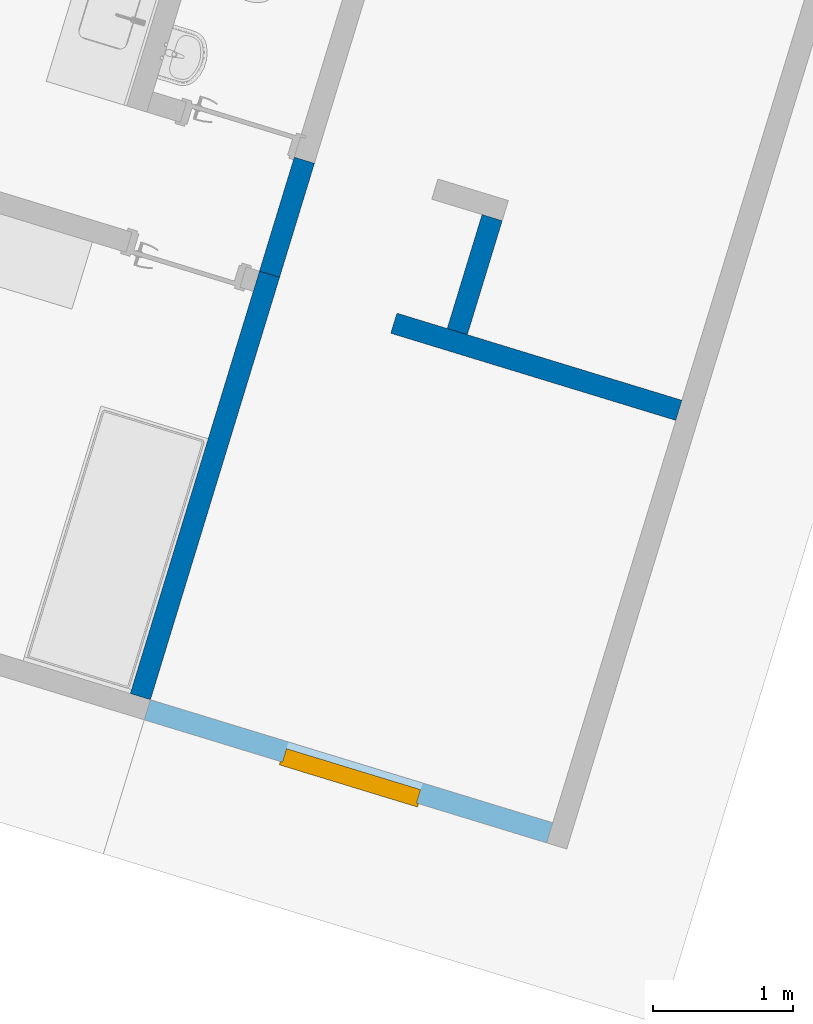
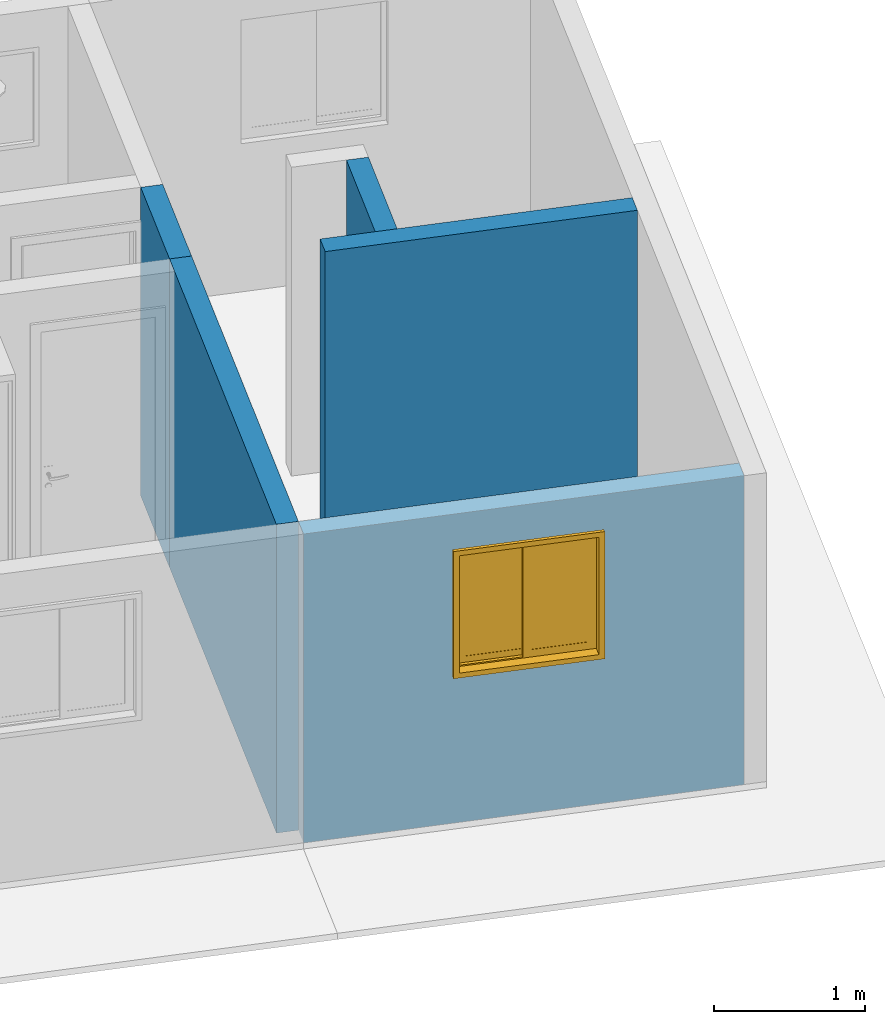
# One storey, part 4 of 13: 4 walls, 1 window, 1 opening, plus 1 element that does not belong to this part.
"""IFC2X3 building model written with IfcOpenShell, lengths in millimetres."""

from ifc_helpers import new_model, entity, si_unit, converted_unit, derived_unit, money_unit, direction, frame, origin_with_axes, place, context, subcontext, project, spatial, open_shell, faceted_brep, surface_model, material, type_object, element, fill, save


model = new_model("IFC2X3")

# Units and contexts
model_context = context("Model", 3, precision=0.01, world=origin_with_axes(), true_north=direction((0.0, 1.0)))
body_context = subcontext(model_context, "Body", "Model", "MODEL_VIEW")
ifc_project = project(units=[si_unit("LENGTHUNIT", "METRE", prefix="MILLI"), si_unit("AREAUNIT", "SQUARE_METRE"), si_unit("VOLUMEUNIT", "CUBIC_METRE"), converted_unit("PLANEANGLEUNIT", "DEGREE", entity("IfcPlaneAngleMeasure", 0.0174532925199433), si_unit("PLANEANGLEUNIT", "RADIAN"), dimensions=[0, 0, 0, 0, 0, 0, 0]), money_unit("USD"), converted_unit("TIMEUNIT", "Year", entity("IfcTimeMeasure", 31557600.0), si_unit("TIMEUNIT", "SECOND"), dimensions=[0, 0, 1, 0, 0, 0, 0]), si_unit("MASSUNIT", "GRAM", prefix="KILO"), si_unit("THERMODYNAMICTEMPERATUREUNIT", "DEGREE_CELSIUS"), si_unit("LUMINOUSINTENSITYUNIT", "LUMEN"), si_unit("ENERGYUNIT", "JOULE", prefix="MEGA"), derived_unit("THERMALCONDUCTANCEUNIT", [(si_unit("POWERUNIT", "WATT"), 1), (si_unit("LENGTHUNIT", "METRE"), -1), (si_unit("THERMODYNAMICTEMPERATUREUNIT", "KELVIN"), -1)]), derived_unit("SPECIFICHEATCAPACITYUNIT", [(si_unit("ENERGYUNIT", "JOULE"), 1), (si_unit("MASSUNIT", "GRAM", prefix="KILO"), -1), (si_unit("THERMODYNAMICTEMPERATUREUNIT", "KELVIN"), -1)]), derived_unit("MASSDENSITYUNIT", [(si_unit("MASSUNIT", "GRAM", prefix="KILO"), 1), (si_unit("VOLUMEUNIT", "CUBIC_METRE"), -1)])], contexts=[model_context])

# Site, building, storey
site_placement = place(None, frame((0.0, 0.0, 0.0), z_axis=(0.0, 0.0, 1.0), x_axis=(0.9563047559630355, -0.2923717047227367, 0.0)))
site = spatial("IfcSite", under=ifc_project, at=site_placement, Name="Site", CompositionType="ELEMENT")
building_placement = place(site_placement, origin_with_axes())
building = spatial("IfcBuilding", under=site, at=building_placement, Name="Casa Térrea Isolada", CompositionType="ELEMENT")
storey_placement = place(building_placement, origin_with_axes())
storey = spatial("IfcBuildingStorey", under=building, at=storey_placement, Name="Terreo", CompositionType="ELEMENT", Elevation=0.0)

# Wall, opening, window
ifc_material = material(Name="Bloco de Concreto - Estrutural")
wall_type = type_object("IfcWallType", Name="Bloco de Concreto - Estrutural 150", PredefinedType="NOTDEFINED")
wall_1_placement = place(storey_placement, frame((9525.00288190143, 75.00148694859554, 0.0), z_axis=(0.0, 0.0, 1.0), x_axis=(-0.9999999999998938, -4.610697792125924e-07, 0.0)))
wall_1 = element("IfcWall", 1, at=wall_1_placement, inside=storey, type_object=wall_type, material=ifc_material, Name="Parede 16", context=body_context, shape_type="Brep", body=[
    faceted_brep([(3075.000000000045, 74.99999999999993, 0.0), (74.99999999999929, 75.00000000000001, 0.0), (74.99999999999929, 75.00000000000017, 2500.0), (3075.000000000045, 75.00000000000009, 2500.0), (2045.000092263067, 75.00000000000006, 1200.0), (2045.000092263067, 75.00000000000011, 2200.0), (1045.00009226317, 75.00000000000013, 2200.0), (1045.00009226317, 75.00000000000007, 1200.0), (3075.000000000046, -75.00000000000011, 0.0), (74.99999999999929, -74.99999999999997, 0.0), (74.99999999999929, -74.99999999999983, 2500.0), (3075.000000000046, -74.99999999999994, 2500.0), (2045.000092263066, -74.99999999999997, 1200.0), (2045.000092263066, -74.99999999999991, 2200.0), (1045.000092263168, -74.99999999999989, 2200.0), (1045.000092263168, -74.99999999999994, 1200.0)], [[[0, 1, 2, 3], [4, 5, 6, 7]], [[8, 9, 1, 0]], [[2, 1, 9, 10]], [[3, 2, 10, 11]], [[8, 0, 3, 11]], [[5, 4, 12, 13]], [[14, 6, 5, 13]], [[15, 7, 6, 14]], [[4, 7, 15, 12]], [[11, 10, 9, 8], [15, 14, 13, 12]]]),
])
opening_placement = place(wall_1_placement, frame((1545.000092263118, 0.0, 1200.0), z_axis=(0.0, 0.0, 1.0), x_axis=(1.0, 0.0, 0.0)))
opening = element("IfcOpeningElement", 2, at=opening_placement, cuts=wall_1, Name="J07", context=body_context, shape_type="Brep", body=[
    faceted_brep([(514.9999999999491, 76.00141778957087, -15.00000000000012), (-514.9999999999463, 76.0014177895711, -15.00000000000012), (-514.9999999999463, 76.00141778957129, 1015.0), (514.9999999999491, 76.00141778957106, 1015.0), (514.9999999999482, 74.99999999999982, -15.00000000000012), (-514.9999999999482, 75.00000000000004, -15.00000000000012), (-514.9999999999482, 75.00000000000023, 1015.0), (514.9999999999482, 75.00000000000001, 1015.0), (-499.9999999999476, 75.00000000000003, 0.0), (-499.9999999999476, 75.00000000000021, 1000.0), (499.9999999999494, 75.00000000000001, 1000.0), (499.9999999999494, 74.99999999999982, 0.0), (-499.9999999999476, -24.99999999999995, 0.0), (-499.9999999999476, -24.9999999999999, 1000.0), (-499.9999999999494, -76.00141778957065, 1000.0), (499.9999999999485, -76.00141778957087, 1000.0), (499.9999999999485, -25.00000000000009, 1000.0), (499.9999999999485, -25.00000000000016, 0.0), (499.9999999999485, -76.00141778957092, 0.0), (-499.9999999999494, -76.0014177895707, 0.0)], [[[0, 1, 2, 3]], [[4, 5, 1, 0]], [[5, 6, 2, 1]], [[6, 7, 3, 2]], [[7, 4, 0, 3]], [[6, 5, 4, 7], [8, 9, 10, 11]], [[9, 8, 12, 13]], [[10, 9, 13, 14, 15, 16]], [[11, 10, 16, 17]], [[8, 11, 17, 18, 19, 12]], [[13, 12, 19, 14]], [[14, 19, 18, 15]], [[17, 16, 15, 18]]]),
])
window_style = type_object("IfcWindowStyle", Name="Janela 26", ConstructionType="NOTDEFINED", OperationType="DOUBLE_PANEL_VERTICAL", ParameterTakesPrecedence=False, Sizeable=False)
window_placement = place(opening_placement, frame((499.9999999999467, 0.0, 0.0), z_axis=(0.0, 0.0, 1.0), x_axis=(-1.0, 0.0, 0.0)))
window = element("IfcWindow", 3, at=window_placement, inside=storey, type_object=window_style, Name="J07", OverallHeight=1000.0, OverallWidth=1000.0, context=body_context, shape_type="SurfaceModel", body=[
    faceted_brep([(0.0, -24.99999999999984, 0.0), (999.9999999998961, -25.00000000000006, 0.0), (999.9999999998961, -75.00000000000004, 0.0), (0.0, -74.99999999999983, 0.0), (0.0, -25.00000000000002, 1000.0), (999.9999999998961, -25.00000000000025, 1000.0), (24.99999999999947, -24.99999999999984, 24.99999999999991), (974.9999999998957, -25.00000000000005, 24.99999999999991), (974.9999999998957, -25.00000000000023, 975.0000000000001), (24.99999999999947, -25.00000000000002, 975.0000000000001), (999.9999999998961, -75.00000000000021, 1000.0), (0.0, -75.00000000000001, 1000.0), (24.99999999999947, -74.99999999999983, 24.99999999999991), (24.99999999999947, -75.00000000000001, 975.0000000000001), (974.9999999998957, -75.00000000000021, 975.0000000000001), (974.9999999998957, -75.00000000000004, 24.99999999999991)], [[[0, 1, 2, 3]], [[0, 4, 5, 1], [6, 7, 8, 9]], [[1, 5, 10, 2]], [[3, 2, 10, 11], [12, 13, 14, 15]], [[4, 0, 3, 11]], [[5, 4, 11, 10]], [[7, 6, 12, 15]], [[8, 7, 15, 14]], [[9, 8, 14, 13]], [[6, 9, 13, 12]]]),
    faceted_brep([(-15.00000000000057, -99.99999999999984, -15.00000000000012), (-14.99999999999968, -74.99999999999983, -15.00000000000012), (24.99999999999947, -74.99999999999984, 24.99999999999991), (25.00000000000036, -99.99999999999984, 24.99999999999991), (-15.00000000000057, -100.0, 1015.0), (-14.99999999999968, -75.00000000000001, 1015.0), (24.99999999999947, -75.00000000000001, 975.0000000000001), (25.00000000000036, -100.0, 975.0000000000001)], [[[0, 1, 2, 3]], [[4, 5, 1, 0]], [[1, 5, 6, 2]], [[3, 2, 6, 7]], [[0, 3, 7, 4]], [[7, 6, 5, 4]]]),
    faceted_brep([(1014.999999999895, -100.0000000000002, 1015.0), (1014.999999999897, -75.00000000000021, 1015.0), (974.9999999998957, -75.00000000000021, 975.0000000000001), (974.9999999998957, -100.0000000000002, 975.0000000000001), (1014.999999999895, -100.0, -15.00000000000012), (1014.999999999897, -75.00000000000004, -15.00000000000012), (974.9999999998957, -75.00000000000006, 24.99999999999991), (974.9999999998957, -100.0000000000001, 24.99999999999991)], [[[0, 1, 2, 3]], [[4, 5, 1, 0]], [[1, 5, 6, 2]], [[3, 2, 6, 7]], [[0, 3, 7, 4]], [[7, 6, 5, 4]]]),
    faceted_brep([(1014.999999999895, -100.0, -15.00000000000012), (1014.999999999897, -75.00000000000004, -15.00000000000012), (974.9999999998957, -75.00000000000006, 24.99999999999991), (974.9999999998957, -100.0000000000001, 24.99999999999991), (-15.00000000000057, -99.99999999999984, -15.00000000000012), (-14.99999999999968, -74.99999999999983, -15.00000000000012), (24.99999999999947, -74.99999999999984, 24.99999999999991), (25.00000000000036, -99.99999999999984, 24.99999999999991)], [[[0, 1, 2, 3]], [[4, 5, 1, 0]], [[1, 5, 6, 2]], [[3, 2, 6, 7]], [[0, 3, 7, 4]], [[7, 6, 5, 4]]]),
    faceted_brep([(-15.00000000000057, -100.0, 1015.0), (-14.99999999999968, -75.00000000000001, 1015.0), (24.99999999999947, -75.00000000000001, 975.0000000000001), (25.00000000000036, -100.0, 975.0000000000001), (1014.999999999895, -100.0000000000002, 1015.0), (1014.999999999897, -75.00000000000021, 1015.0), (974.9999999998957, -75.00000000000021, 975.0000000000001), (974.9999999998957, -100.0000000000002, 975.0000000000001)], [[[0, 1, 2, 3]], [[4, 5, 1, 0]], [[1, 5, 6, 2]], [[3, 2, 6, 7]], [[0, 3, 7, 4]], [[7, 6, 5, 4]]]),
    faceted_brep([(35.00000000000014, -25.00000000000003, 964.9999999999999), (35.00000000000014, 24.99999999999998, 964.9999999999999), (0.0, 24.99999999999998, 964.9999999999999), (0.0, -25.00000000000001, 964.9999999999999), (35.00000000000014, -24.99999999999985, 34.99999999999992), (35.00000000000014, 25.00000000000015, 34.99999999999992), (0.0, 25.00000000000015, 34.99999999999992), (0.0, -24.99999999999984, 34.99999999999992)], [[[0, 1, 2, 3]], [[4, 5, 1, 0]], [[1, 5, 6, 2]], [[3, 2, 6, 7]], [[0, 3, 7, 4]], [[7, 6, 5, 4]]]),
    faceted_brep([(964.999999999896, -25.00000000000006, 34.99999999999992), (964.999999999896, 24.99999999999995, 34.99999999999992), (999.9999999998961, 24.99999999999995, 34.99999999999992), (999.9999999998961, -25.00000000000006, 34.99999999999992), (964.999999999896, -25.00000000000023, 964.9999999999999), (964.999999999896, 24.99999999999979, 964.9999999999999), (999.9999999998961, 24.99999999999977, 964.9999999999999), (999.9999999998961, -25.00000000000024, 964.9999999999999)], [[[0, 1, 2, 3]], [[4, 5, 1, 0]], [[1, 5, 6, 2]], [[3, 2, 6, 7]], [[0, 3, 7, 4]], [[7, 6, 5, 4]]]),
    faceted_brep([(35.00000000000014, -24.99999999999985, 34.99999999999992), (35.00000000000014, 25.00000000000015, 34.99999999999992), (0.0, 25.00000000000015, 34.99999999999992), (0.0, -24.99999999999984, 34.99999999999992), (964.999999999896, -25.00000000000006, 34.99999999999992), (964.999999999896, 24.99999999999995, 34.99999999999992), (999.9999999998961, 24.99999999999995, 34.99999999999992), (999.9999999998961, 24.99999999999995, 0.0), (0.0, 25.00000000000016, 0.0), (0.0, -24.99999999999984, 0.0), (999.9999999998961, -25.00000000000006, 0.0), (999.9999999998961, -25.00000000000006, 34.99999999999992)], [[[0, 1, 2, 3]], [[4, 5, 1, 0]], [[1, 5, 6, 7, 8, 2]], [[3, 2, 8, 9]], [[0, 3, 9, 10, 11, 4]], [[11, 6, 5, 4]], [[10, 7, 6, 11]], [[9, 8, 7, 10]]]),
    faceted_brep([(964.999999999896, -25.00000000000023, 964.9999999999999), (964.999999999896, 24.99999999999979, 964.9999999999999), (999.9999999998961, 24.99999999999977, 964.9999999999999), (999.9999999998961, -25.00000000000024, 964.9999999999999), (35.00000000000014, -25.00000000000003, 964.9999999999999), (35.00000000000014, 24.99999999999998, 964.9999999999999), (0.0, 24.99999999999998, 964.9999999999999), (0.0, 24.99999999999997, 1000.0), (999.9999999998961, 24.99999999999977, 1000.0), (999.9999999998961, -25.00000000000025, 1000.0), (0.0, -25.00000000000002, 1000.0), (0.0, -25.00000000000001, 964.9999999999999)], [[[0, 1, 2, 3]], [[4, 5, 1, 0]], [[1, 5, 6, 7, 8, 2]], [[3, 2, 8, 9]], [[0, 3, 9, 10, 11, 4]], [[11, 6, 5, 4]], [[10, 7, 6, 11]], [[9, 8, 7, 10]]]),
    faceted_brep([(524.9999999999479, -25.00000000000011, 915.0), (524.9999999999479, 0.0, 915.0), (474.9999999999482, 0.0, 915.0), (474.9999999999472, -25.00000000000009, 915.0), (524.9999999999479, -24.99999999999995, 84.99999999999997), (524.9999999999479, 0.0, 84.99999999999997), (474.9999999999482, 0.0, 84.99999999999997), (474.9999999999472, -24.99999999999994, 84.99999999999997)], [[[0, 1, 2, 3]], [[4, 5, 1, 0]], [[1, 5, 6, 2]], [[3, 2, 6, 7]], [[0, 3, 7, 4]], [[7, 6, 5, 4]]]),
    faceted_brep([(914.9999999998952, -25.00000000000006, 84.99999999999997), (914.999999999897, 0.0, 84.99999999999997), (964.9999999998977, 0.0, 84.99999999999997), (964.999999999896, -25.00000000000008, 84.99999999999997), (914.9999999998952, -25.00000000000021, 915.0), (914.999999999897, 0.0, 915.0), (964.9999999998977, 0.0, 915.0), (964.999999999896, -25.00000000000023, 915.0)], [[[0, 1, 2, 3]], [[4, 5, 1, 0]], [[1, 5, 6, 2]], [[3, 2, 6, 7]], [[0, 3, 7, 4]], [[7, 6, 5, 4]]]),
    faceted_brep([(964.999999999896, -25.00000000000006, 34.99999999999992), (964.9999999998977, 0.0, 34.99999999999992), (964.9999999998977, 0.0, 84.99999999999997), (964.999999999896, -25.00000000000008, 84.99999999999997), (474.9999999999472, -24.99999999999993, 34.99999999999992), (474.9999999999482, 0.0, 34.99999999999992), (474.9999999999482, 0.0, 84.99999999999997), (524.9999999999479, 0.0, 84.99999999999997), (914.999999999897, 0.0, 84.99999999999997), (914.9999999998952, -25.00000000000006, 84.99999999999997), (524.9999999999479, -24.99999999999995, 84.99999999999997), (474.9999999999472, -24.99999999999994, 84.99999999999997)], [[[0, 1, 2, 3]], [[4, 5, 1, 0]], [[1, 5, 6, 7, 8, 2]], [[3, 2, 8, 9]], [[0, 3, 9, 10, 11, 4]], [[11, 6, 5, 4]], [[10, 7, 6, 11]], [[9, 8, 7, 10]]]),
    faceted_brep([(474.9999999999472, -25.0000000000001, 964.9999999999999), (474.9999999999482, 0.0, 964.9999999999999), (474.9999999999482, 0.0, 915.0), (474.9999999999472, -25.00000000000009, 915.0), (964.999999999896, -25.00000000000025, 964.9999999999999), (964.9999999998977, 0.0, 964.9999999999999), (964.9999999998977, 0.0, 915.0), (914.999999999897, 0.0, 915.0), (524.9999999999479, 0.0, 915.0), (524.9999999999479, -25.00000000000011, 915.0), (914.9999999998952, -25.00000000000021, 915.0), (964.999999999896, -25.00000000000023, 915.0)], [[[0, 1, 2, 3]], [[4, 5, 1, 0]], [[1, 5, 6, 7, 8, 2]], [[3, 2, 8, 9]], [[0, 3, 9, 10, 11, 4]], [[11, 6, 5, 4]], [[10, 7, 6, 11]], [[9, 8, 7, 10]]]),
    surface_model("IfcShellBasedSurfaceModel", [(524.9999999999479, -22.49999999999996, 84.99999999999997), (914.9999999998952, -22.50000000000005, 84.99999999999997), (914.9999999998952, -22.50000000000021, 915.0), (524.9999999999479, -22.50000000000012, 915.0)], [open_shell([[[0, 1, 2, 3]]])]),
    surface_model("IfcShellBasedSurfaceModel", [(524.9999999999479, -2.49999999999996, 84.99999999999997), (524.9999999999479, -2.500000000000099, 915.0), (914.9999999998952, -2.500000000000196, 915.0), (914.9999999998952, -2.500000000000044, 84.99999999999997)], [open_shell([[[0, 1, 2, 3]]])]),
    faceted_brep([(84.99999999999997, 0.0, 915.0), (84.99999999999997, 24.99999999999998, 915.0), (35.00000000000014, 24.99999999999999, 915.0), (35.00000000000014, 0.0, 915.0), (84.99999999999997, 0.0, 84.99999999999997), (84.99999999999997, 25.00000000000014, 84.99999999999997), (35.00000000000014, 25.00000000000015, 84.99999999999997), (35.00000000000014, 0.0, 84.99999999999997)], [[[0, 1, 2, 3]], [[4, 5, 1, 0]], [[1, 5, 6, 2]], [[3, 2, 6, 7]], [[0, 3, 7, 4]], [[7, 6, 5, 4]]]),
    faceted_brep([(474.9999999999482, 0.0, 84.99999999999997), (474.9999999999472, 25.00000000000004, 84.99999999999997), (524.9999999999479, 25.00000000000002, 84.99999999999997), (524.9999999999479, 0.0, 84.99999999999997), (474.9999999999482, 0.0, 915.0), (474.9999999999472, 24.99999999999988, 915.0), (524.9999999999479, 24.99999999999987, 915.0), (524.9999999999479, 0.0, 915.0)], [[[0, 1, 2, 3]], [[4, 5, 1, 0]], [[1, 5, 6, 2]], [[3, 2, 6, 7]], [[0, 3, 7, 4]], [[7, 6, 5, 4]]]),
    faceted_brep([(524.9999999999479, 0.0, 34.99999999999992), (524.9999999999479, 25.00000000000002, 34.99999999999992), (524.9999999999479, 25.00000000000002, 84.99999999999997), (524.9999999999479, 0.0, 84.99999999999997), (35.00000000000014, 0.0, 34.99999999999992), (35.00000000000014, 25.00000000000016, 34.99999999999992), (35.00000000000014, 25.00000000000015, 84.99999999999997), (84.99999999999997, 25.00000000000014, 84.99999999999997), (474.9999999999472, 25.00000000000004, 84.99999999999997), (474.9999999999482, 0.0, 84.99999999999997), (84.99999999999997, 0.0, 84.99999999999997), (35.00000000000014, 0.0, 84.99999999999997)], [[[0, 1, 2, 3]], [[4, 5, 1, 0]], [[1, 5, 6, 7, 8, 2]], [[3, 2, 8, 9]], [[0, 3, 9, 10, 11, 4]], [[11, 6, 5, 4]], [[10, 7, 6, 11]], [[9, 8, 7, 10]]]),
    faceted_brep([(35.00000000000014, 0.0, 964.9999999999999), (35.00000000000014, 24.99999999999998, 964.9999999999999), (35.00000000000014, 24.99999999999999, 915.0), (35.00000000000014, 0.0, 915.0), (524.9999999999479, 0.0, 964.9999999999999), (524.9999999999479, 24.99999999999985, 964.9999999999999), (524.9999999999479, 24.99999999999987, 915.0), (474.9999999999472, 24.99999999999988, 915.0), (84.99999999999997, 24.99999999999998, 915.0), (84.99999999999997, 0.0, 915.0), (474.9999999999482, 0.0, 915.0), (524.9999999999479, 0.0, 915.0)], [[[0, 1, 2, 3]], [[4, 5, 1, 0]], [[1, 5, 6, 7, 8, 2]], [[3, 2, 8, 9]], [[0, 3, 9, 10, 11, 4]], [[11, 6, 5, 4]], [[10, 7, 6, 11]], [[9, 8, 7, 10]]]),
    surface_model("IfcShellBasedSurfaceModel", [(84.99999999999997, 2.500000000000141, 84.99999999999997), (474.9999999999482, 2.500000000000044, 84.99999999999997), (474.9999999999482, 2.499999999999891, 915.0), (84.99999999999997, 2.499999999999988, 915.0)], [open_shell([[[0, 1, 2, 3]]])]),
    surface_model("IfcShellBasedSurfaceModel", [(84.99999999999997, 22.50000000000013, 84.99999999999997), (84.99999999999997, 22.49999999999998, 915.0), (474.9999999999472, 22.49999999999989, 915.0), (474.9999999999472, 22.50000000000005, 84.99999999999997)], [open_shell([[[0, 1, 2, 3]]])]),
])
fill(opening, window)

# Walls
wall_2_placement = place(storey_placement, frame((9525.001429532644, 3224.999259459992, 0.0), z_axis=(0.0, 0.0, 1.0), x_axis=(-0.9999999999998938, -4.610697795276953e-07, 0.0)))
element("IfcWall", 4, at=wall_2_placement, inside=storey, type_object=wall_type, material=ifc_material, Name="Parede 15", context=body_context, shape_type="Brep", body=[
    faceted_brep([(74.99999999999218, -75.00000000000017, 2500.0), (2200.000000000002, -75.00000000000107, 2500.0), (2200.000000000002, 74.99999999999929, 2500.0), (74.99999999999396, 74.99999999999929, 2500.0), (74.99999999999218, -75.00000000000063, 0.0), (2200.000000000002, -75.00000000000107, 0.0), (2200.000000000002, 74.99999999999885, 0.0), (74.99999999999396, 74.99999999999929, 0.0)], [[[0, 1, 2, 3]], [[4, 5, 1, 0]], [[2, 1, 5, 6]], [[3, 2, 6, 7]], [[4, 0, 3, 7]], [[7, 6, 5, 4]]]),
])
wall_3_placement = place(storey_placement, frame((7775.003727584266, 3224.997807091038, 0.0), z_axis=(0.0, 0.0, 1.0), x_axis=(-4.610697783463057e-07, 0.9999999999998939, 0.0)))
element("IfcWall", 5, at=wall_3_placement, inside=storey, type_object=wall_type, material=ifc_material, Name="Parede 17", context=body_context, shape_type="Brep", body=[
    faceted_brep([(925.0027171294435, -74.99999999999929, 2500.0), (925.0027171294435, 75.00000000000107, 2500.0), (75.00064549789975, 75.00000000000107, 2500.0), (75.0006454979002, -74.99999999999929, 2500.0), (925.0027171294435, -74.99999999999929, 0.0), (925.0027171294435, 75.00000000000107, 0.0), (75.00064549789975, 75.00000000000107, 0.0), (75.0006454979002, -74.99999999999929, 0.0)], [[[0, 1, 2, 3]], [[1, 0, 4, 5]], [[1, 5, 6, 2]], [[7, 3, 2, 6]], [[4, 0, 3, 7]], [[5, 4, 7, 6]]]),
])
wall_4_placement = place(storey_placement, frame((6375.002881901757, 75.00003457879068, 0.0), z_axis=(0.0, 0.0, 1.0), x_axis=(-4.610697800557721e-07, 0.9999999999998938, 0.0)))
element("IfcWall", 6, at=wall_4_placement, inside=storey, type_object=wall_type, material=ifc_material, Name="Parede 08", context=body_context, shape_type="Brep", body=[
    faceted_brep([(75.0, -75.00000000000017, 2500.0), (3224.997737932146, -74.99999999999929, 2500.0), (3224.997737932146, 75.00000000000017, 2500.0), (75.00000000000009, 75.00000000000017, 2500.0), (75.0, -75.00000000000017, 0.0), (3224.997737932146, -75.00000000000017, 0.0), (3224.997737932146, 75.00000000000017, 0.0), (75.00000000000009, 75.00000000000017, 0.0)], [[[0, 1, 2, 3]], [[4, 5, 1, 0]], [[2, 1, 5, 6]], [[3, 2, 6, 7]], [[4, 0, 3, 7]], [[7, 6, 5, 4]]]),
])
wall_5_placement = place(storey_placement, frame((6375.001394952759, 3299.997772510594, 0.0), z_axis=(0.0, 0.0, 1.0), x_axis=(-4.610697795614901e-07, 0.9999999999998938, 0.0)))
element("IfcWall", 7, at=wall_5_placement, inside=storey, type_object=wall_type, material=ifc_material, Name="Parede 08", context=body_context, shape_type="Brep", body=[
    faceted_brep([(0.0, -75.00000000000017, 2500.0), (850.0020716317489, -75.00000000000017, 2500.0), (850.0020716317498, 75.00000000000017, 2500.0), (0.0, 75.00000000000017, 2500.0), (0.0, -75.00000000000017, 0.0), (850.0020716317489, -75.00000000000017, 0.0), (850.0020716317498, 75.00000000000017, 0.0), (0.0, 75.00000000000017, 0.0)], [[[0, 1, 2, 3]], [[4, 5, 1, 0]], [[2, 1, 5, 6]], [[3, 2, 6, 7]], [[4, 0, 3, 7]], [[7, 6, 5, 4]]]),
])

save(model, "model.ifc")
